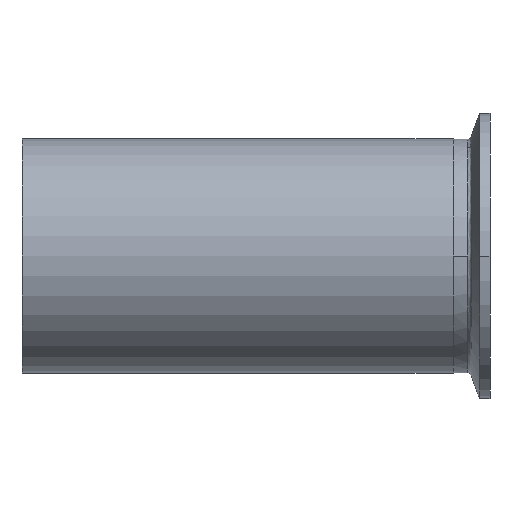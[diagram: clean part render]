
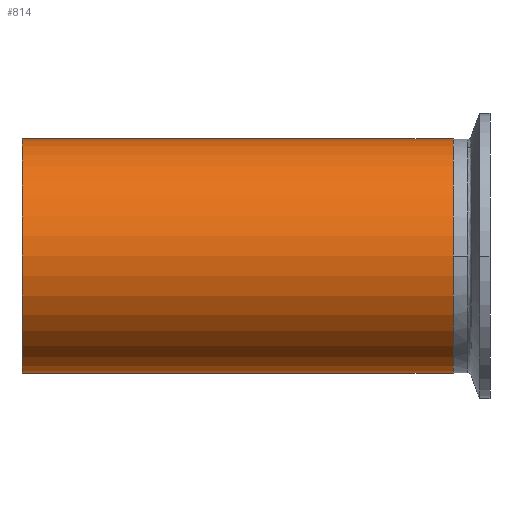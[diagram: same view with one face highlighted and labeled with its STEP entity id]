
A CAD part, front view. The second image highlights one B-rep face of the part: STEP entity #814.
In plain terms, the highlighted cylindrical face has radius 31.75 mm (diameter 63.5 mm), a partial arc.
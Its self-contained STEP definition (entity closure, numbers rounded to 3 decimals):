
#39 = CARTESIAN_POINT ( 'NONE',  ( -79.4, 0., 31.75 ) ) ;
#82 = ORIENTED_EDGE ( 'NONE', *, *, #1675, .T. ) ;
#105 = VERTEX_POINT ( 'NONE', #39 ) ;
#128 = VERTEX_POINT ( 'NONE', #1979 ) ;
#155 = CARTESIAN_POINT ( 'NONE',  ( 37.6, 0., -31.75 ) ) ;
#188 = ORIENTED_EDGE ( 'NONE', *, *, #1644, .T. ) ;
#229 = CYLINDRICAL_SURFACE ( 'NONE', #2007, 31.75 ) ;
#335 = VECTOR ( 'NONE', #1639, 1000. ) ;
#419 = VERTEX_POINT ( 'NONE', #2167 ) ;
#428 = LINE ( 'NONE', #1434, #1779 ) ;
#465 = CIRCLE ( 'NONE', #1011, 31.75 ) ;
#523 = DIRECTION ( 'NONE',  ( 1., 0., 0. ) ) ;
#638 = ORIENTED_EDGE ( 'NONE', *, *, #778, .F. ) ;
#666 = ORIENTED_EDGE ( 'NONE', *, *, #1263, .T. ) ;
#733 = VERTEX_POINT ( 'NONE', #1094 ) ;
#740 = ORIENTED_EDGE ( 'NONE', *, *, #2250, .F. ) ;
#778 = EDGE_CURVE ( 'NONE', #128, #733, #787, .T. ) ;
#787 = LINE ( 'NONE', #1615, #335 ) ;
#814 = ADVANCED_FACE ( 'NONE', ( #1322 ), #229, .T. ) ;
#818 = VECTOR ( 'NONE', #1031, 1000. ) ;
#843 = AXIS2_PLACEMENT_3D ( 'NONE', #1594, #523, #1775 ) ;
#861 = CARTESIAN_POINT ( 'NONE',  ( 37.6, 0., 0. ) ) ;
#871 = DIRECTION ( 'NONE',  ( -1., 0., 0. ) ) ;
#905 = DIRECTION ( 'NONE',  ( 0., 0., 1. ) ) ;
#917 = CARTESIAN_POINT ( 'NONE',  ( 127.403, 0., 31.75 ) ) ;
#926 = LINE ( 'NONE', #1010, #818 ) ;
#952 = VECTOR ( 'NONE', #1108, 1000. ) ;
#1010 = CARTESIAN_POINT ( 'NONE',  ( 127.403, 0., 31.75 ) ) ;
#1011 = AXIS2_PLACEMENT_3D ( 'NONE', #861, #871, #905 ) ;
#1031 = DIRECTION ( 'NONE',  ( -1., 0., 0. ) ) ;
#1052 = VERTEX_POINT ( 'NONE', #155 ) ;
#1094 = CARTESIAN_POINT ( 'NONE',  ( -79.4, 0., -31.75 ) ) ;
#1108 = DIRECTION ( 'NONE',  ( -1., 0., 0. ) ) ;
#1231 = EDGE_CURVE ( 'NONE', #1052, #419, #465, .T. ) ;
#1244 = CARTESIAN_POINT ( 'NONE',  ( 0., 0., 31.75 ) ) ;
#1263 = EDGE_CURVE ( 'NONE', #2187, #105, #926, .T. ) ;
#1322 = FACE_OUTER_BOUND ( 'NONE', #1398, .T. ) ;
#1398 = EDGE_LOOP ( 'NONE', ( #740, #1539, #188, #666, #82, #638 ) ) ;
#1434 = CARTESIAN_POINT ( 'NONE',  ( 127.403, 0., -31.75 ) ) ;
#1495 = CIRCLE ( 'NONE', #843, 31.75 ) ;
#1539 = ORIENTED_EDGE ( 'NONE', *, *, #1231, .T. ) ;
#1594 = CARTESIAN_POINT ( 'NONE',  ( -79.4, 0., 0. ) ) ;
#1615 = CARTESIAN_POINT ( 'NONE',  ( 127.403, 0., -31.75 ) ) ;
#1639 = DIRECTION ( 'NONE',  ( -1., 0., 0. ) ) ;
#1644 = EDGE_CURVE ( 'NONE', #419, #2187, #1909, .T. ) ;
#1675 = EDGE_CURVE ( 'NONE', #105, #733, #1495, .T. ) ;
#1775 = DIRECTION ( 'NONE',  ( 0., 0., 1. ) ) ;
#1779 = VECTOR ( 'NONE', #2169, 1000. ) ;
#1794 = DIRECTION ( 'NONE',  ( 0., 0., 1. ) ) ;
#1909 = LINE ( 'NONE', #917, #952 ) ;
#1973 = CARTESIAN_POINT ( 'NONE',  ( 127.403, 0., 0. ) ) ;
#1979 = CARTESIAN_POINT ( 'NONE',  ( 0., 0., -31.75 ) ) ;
#2006 = DIRECTION ( 'NONE',  ( -1., 0., 0. ) ) ;
#2007 = AXIS2_PLACEMENT_3D ( 'NONE', #1973, #2006, #1794 ) ;
#2167 = CARTESIAN_POINT ( 'NONE',  ( 37.6, 0., 31.75 ) ) ;
#2169 = DIRECTION ( 'NONE',  ( -1., 0., 0. ) ) ;
#2187 = VERTEX_POINT ( 'NONE', #1244 ) ;
#2250 = EDGE_CURVE ( 'NONE', #1052, #128, #428, .T. ) ;
